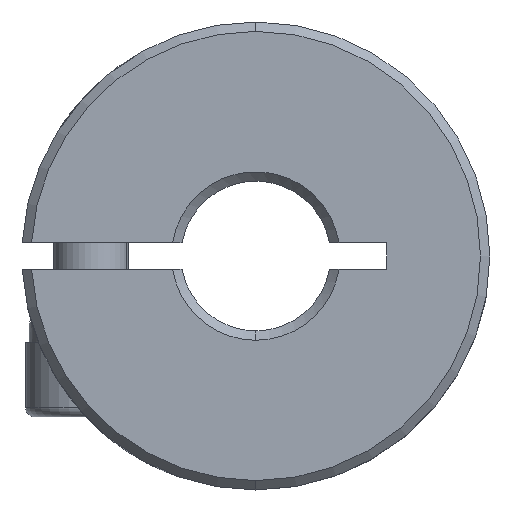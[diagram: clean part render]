
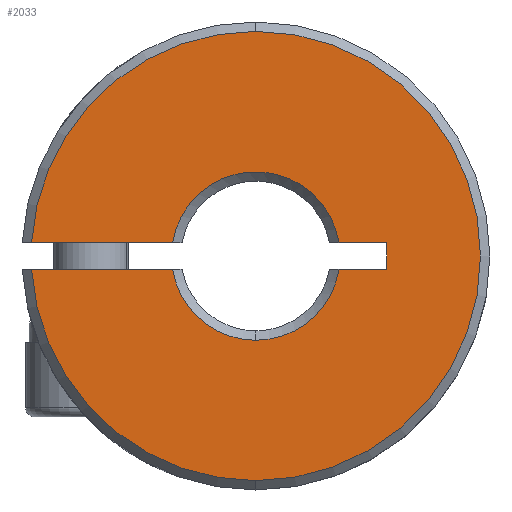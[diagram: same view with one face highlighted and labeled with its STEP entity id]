
A CAD part, front view. The second image highlights one B-rep face of the part: STEP entity #2033.
In plain terms, the highlighted planar face has unit normal (0, -1, 0).
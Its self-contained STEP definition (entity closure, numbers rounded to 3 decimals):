
#2 = ORIENTED_EDGE ( 'NONE', *, *, #4110, .T. ) ;
#12 = VERTEX_POINT ( 'NONE', #4157 ) ;
#16 = CARTESIAN_POINT ( 'NONE',  ( -12.75, 0.25, -0.7 ) ) ;
#53 = CARTESIAN_POINT ( 'NONE',  ( 0., 0.25, 0. ) ) ;
#95 = LINE ( 'NONE', #4557, #4282 ) ;
#287 = AXIS2_PLACEMENT_3D ( 'NONE', #5742, #6304, #3796 ) ;
#501 = DIRECTION ( 'NONE',  ( -1., 0., 0. ) ) ;
#519 = AXIS2_PLACEMENT_3D ( 'NONE', #5861, #4847, #1451 ) ;
#567 = CARTESIAN_POINT ( 'NONE',  ( 0., 0.25, 0. ) ) ;
#568 = CIRCLE ( 'NONE', #2975, 4.5 ) ;
#644 = ORIENTED_EDGE ( 'NONE', *, *, #5042, .T. ) ;
#682 = DIRECTION ( 'NONE',  ( 0., -1., 0. ) ) ;
#816 = LINE ( 'NONE', #2340, #2040 ) ;
#1122 = CARTESIAN_POINT ( 'NONE',  ( -4.445, 0.25, 0.7 ) ) ;
#1142 = EDGE_CURVE ( 'NONE', #2067, #12, #5874, .T. ) ;
#1191 = AXIS2_PLACEMENT_3D ( 'NONE', #567, #5884, #1531 ) ;
#1318 = VERTEX_POINT ( 'NONE', #3156 ) ;
#1384 = EDGE_LOOP ( 'NONE', ( #3940, #4107, #6195, #5346, #5729, #644, #2, #2997, #2679, #3397, #4102 ) ) ;
#1451 = DIRECTION ( 'NONE',  ( 0., 0., 1. ) ) ;
#1477 = DIRECTION ( 'NONE',  ( 1., 0., 0. ) ) ;
#1531 = DIRECTION ( 'NONE',  ( 0., 0., 1. ) ) ;
#1630 = DIRECTION ( 'NONE',  ( 1., 0., 0. ) ) ;
#1653 = DIRECTION ( 'NONE',  ( 0., 0., 1. ) ) ;
#1751 = EDGE_CURVE ( 'NONE', #5635, #1318, #6269, .T. ) ;
#1757 = VERTEX_POINT ( 'NONE', #4915 ) ;
#1808 = EDGE_CURVE ( 'NONE', #1757, #1318, #95, .T. ) ;
#1911 = CARTESIAN_POINT ( 'NONE',  ( 4.445, 0.25, -0.7 ) ) ;
#1945 = LINE ( 'NONE', #6315, #4233 ) ;
#2033 = ADVANCED_FACE ( 'NONE', ( #2971 ), #2932, .F. ) ;
#2040 = VECTOR ( 'NONE', #5758, 1000. ) ;
#2067 = VERTEX_POINT ( 'NONE', #3943 ) ;
#2110 = CIRCLE ( 'NONE', #6245, 12. ) ;
#2152 = VECTOR ( 'NONE', #501, 1000. ) ;
#2230 = CIRCLE ( 'NONE', #287, 12. ) ;
#2246 = LINE ( 'NONE', #16, #3259 ) ;
#2340 = CARTESIAN_POINT ( 'NONE',  ( -12.75, 0.25, 0.7 ) ) ;
#2679 = ORIENTED_EDGE ( 'NONE', *, *, #4314, .T. ) ;
#2911 = VERTEX_POINT ( 'NONE', #1911 ) ;
#2925 = EDGE_CURVE ( 'NONE', #2911, #4032, #2246, .T. ) ;
#2932 = PLANE ( 'NONE',  #519 ) ;
#2971 = FACE_OUTER_BOUND ( 'NONE', #1384, .T. ) ;
#2975 = AXIS2_PLACEMENT_3D ( 'NONE', #3099, #3009, #1653 ) ;
#2997 = ORIENTED_EDGE ( 'NONE', *, *, #4920, .F. ) ;
#3009 = DIRECTION ( 'NONE',  ( 0., 1., 0. ) ) ;
#3099 = CARTESIAN_POINT ( 'NONE',  ( 0., 0.25, 0. ) ) ;
#3118 = VERTEX_POINT ( 'NONE', #1122 ) ;
#3156 = CARTESIAN_POINT ( 'NONE',  ( -4.445, 0.25, -0.7 ) ) ;
#3249 = VERTEX_POINT ( 'NONE', #3267 ) ;
#3259 = VECTOR ( 'NONE', #1477, 1000. ) ;
#3267 = CARTESIAN_POINT ( 'NONE',  ( 0., 0.25, 12. ) ) ;
#3397 = ORIENTED_EDGE ( 'NONE', *, *, #1142, .F. ) ;
#3415 = CARTESIAN_POINT ( 'NONE',  ( -11.98, 0.25, 0.7 ) ) ;
#3423 = CARTESIAN_POINT ( 'NONE',  ( -12.75, 0.25, 0.7 ) ) ;
#3445 = DIRECTION ( 'NONE',  ( 0., 0., 1. ) ) ;
#3476 = DIRECTION ( 'NONE',  ( 0., 0., 1. ) ) ;
#3687 = AXIS2_PLACEMENT_3D ( 'NONE', #53, #4466, #3476 ) ;
#3733 = CARTESIAN_POINT ( 'NONE',  ( 7., 0.25, -0.7 ) ) ;
#3796 = DIRECTION ( 'NONE',  ( 0., 0., 1. ) ) ;
#3905 = VERTEX_POINT ( 'NONE', #3415 ) ;
#3940 = ORIENTED_EDGE ( 'NONE', *, *, #2925, .F. ) ;
#3943 = CARTESIAN_POINT ( 'NONE',  ( 7., 0.25, 0.7 ) ) ;
#4032 = VERTEX_POINT ( 'NONE', #3733 ) ;
#4102 = ORIENTED_EDGE ( 'NONE', *, *, #6023, .F. ) ;
#4107 = ORIENTED_EDGE ( 'NONE', *, *, #6158, .T. ) ;
#4110 = EDGE_CURVE ( 'NONE', #3249, #3905, #2230, .T. ) ;
#4157 = CARTESIAN_POINT ( 'NONE',  ( 4.445, 0.25, 0.7 ) ) ;
#4233 = VECTOR ( 'NONE', #3445, 1000. ) ;
#4282 = VECTOR ( 'NONE', #1630, 1000. ) ;
#4314 = EDGE_CURVE ( 'NONE', #3118, #12, #4547, .T. ) ;
#4459 = AXIS2_PLACEMENT_3D ( 'NONE', #5404, #4919, #4527 ) ;
#4466 = DIRECTION ( 'NONE',  ( 0., 1., 0. ) ) ;
#4527 = DIRECTION ( 'NONE',  ( 0., 0., 1. ) ) ;
#4547 = CIRCLE ( 'NONE', #1191, 4.5 ) ;
#4557 = CARTESIAN_POINT ( 'NONE',  ( -12.75, 0.25, -0.7 ) ) ;
#4847 = DIRECTION ( 'NONE',  ( 0., 1., 0. ) ) ;
#4915 = CARTESIAN_POINT ( 'NONE',  ( -11.98, 0.25, -0.7 ) ) ;
#4919 = DIRECTION ( 'NONE',  ( 0., -1., 0. ) ) ;
#4920 = EDGE_CURVE ( 'NONE', #3118, #3905, #816, .T. ) ;
#5003 = CARTESIAN_POINT ( 'NONE',  ( 0., 0.25, 0. ) ) ;
#5042 = EDGE_CURVE ( 'NONE', #5509, #3249, #2110, .T. ) ;
#5346 = ORIENTED_EDGE ( 'NONE', *, *, #1808, .F. ) ;
#5404 = CARTESIAN_POINT ( 'NONE',  ( 0., 0.25, 0. ) ) ;
#5509 = VERTEX_POINT ( 'NONE', #5993 ) ;
#5514 = DIRECTION ( 'NONE',  ( 0., 0., 1. ) ) ;
#5537 = EDGE_CURVE ( 'NONE', #1757, #5509, #5901, .T. ) ;
#5635 = VERTEX_POINT ( 'NONE', #6096 ) ;
#5729 = ORIENTED_EDGE ( 'NONE', *, *, #5537, .T. ) ;
#5742 = CARTESIAN_POINT ( 'NONE',  ( 0., 0.25, 0. ) ) ;
#5758 = DIRECTION ( 'NONE',  ( -1., 0., 0. ) ) ;
#5861 = CARTESIAN_POINT ( 'NONE',  ( -500., 0.25, -13.609 ) ) ;
#5874 = LINE ( 'NONE', #3423, #2152 ) ;
#5884 = DIRECTION ( 'NONE',  ( 0., 1., 0. ) ) ;
#5901 = CIRCLE ( 'NONE', #4459, 12. ) ;
#5993 = CARTESIAN_POINT ( 'NONE',  ( 0., 0.25, -12. ) ) ;
#6023 = EDGE_CURVE ( 'NONE', #4032, #2067, #1945, .T. ) ;
#6096 = CARTESIAN_POINT ( 'NONE',  ( 0., 0.25, -4.5 ) ) ;
#6158 = EDGE_CURVE ( 'NONE', #2911, #5635, #568, .T. ) ;
#6195 = ORIENTED_EDGE ( 'NONE', *, *, #1751, .T. ) ;
#6245 = AXIS2_PLACEMENT_3D ( 'NONE', #5003, #682, #5514 ) ;
#6269 = CIRCLE ( 'NONE', #3687, 4.5 ) ;
#6304 = DIRECTION ( 'NONE',  ( 0., -1., 0. ) ) ;
#6315 = CARTESIAN_POINT ( 'NONE',  ( 7., 0.25, 0.7 ) ) ;
